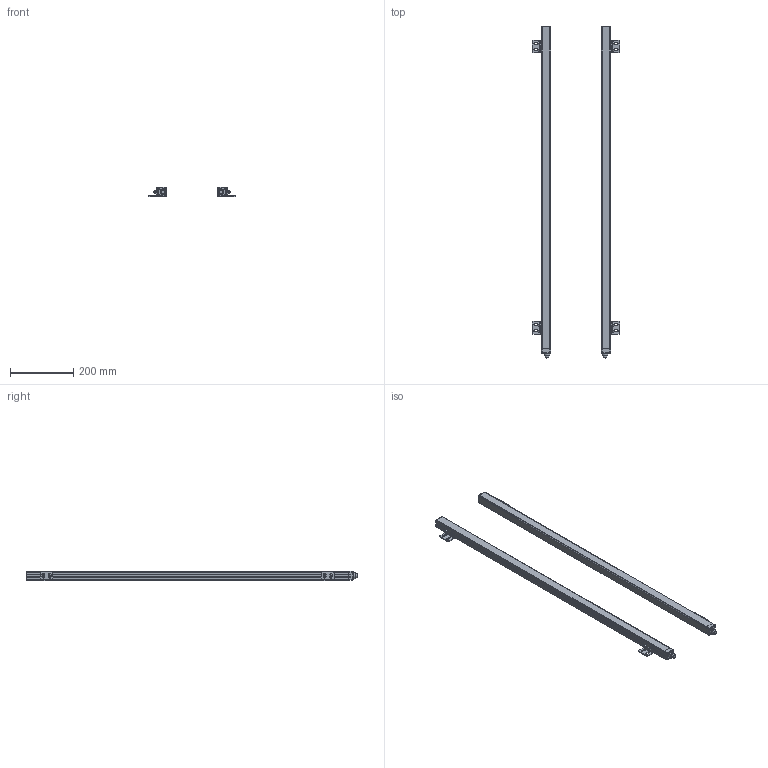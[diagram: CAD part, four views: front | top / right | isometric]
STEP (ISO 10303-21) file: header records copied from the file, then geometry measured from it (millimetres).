
FILE_DESCRIPTION( ( 'STEP AP203' ), '1' );
FILE_NAME( 'p:/temp/worker_29/2856_3348/app_53_02015061609572379362685192d056f_00_00_00_000/STEP/OY122S_2_03.stp', ' ', ( ' ' ), ( ' ' ), 'PSStep 15.0.47', 'PARTsolutions', ' ' );
FILE_SCHEMA( ( 'CONFIG_CONTROL_DESIGN' ) );
Length unit declared in the file: millimetre
Products named in the file (3): OY122S; _OY113S_part1; _OY010S_part2
Assembly tree (6 placements, depth 2):
  OY122S
    _OY113S_part1  x2
    _OY010S_part2  x4
Bounding box: 276 x 1053.2 x 29.34 mm (x, y, z)
Volume: 1688022.7 mm3; surface area: 290746.5 mm2
Topology: 6 solids, 6 shells, 786 faces, 2112 edges, 1394 vertices
Faces by surface type: plane 444, cylinder 324, cone 10, torus 8
Full cylindrical faces by diameter (mm): 2.5 x8, 3 x8, 5 x32, 8.9 x8, 12 x2, 18 x2
Entity records: 10306 total; most frequent: CARTESIAN_POINT 1834, DIRECTION 1788, ORIENTED_EDGE 1690, EDGE_CURVE 845, AXIS2_PLACEMENT_3D 619, VERTEX_POINT 577, LINE 550, VECTOR 550
